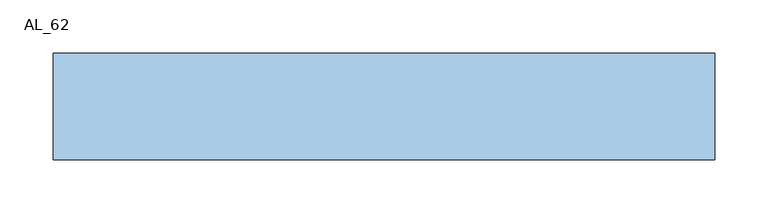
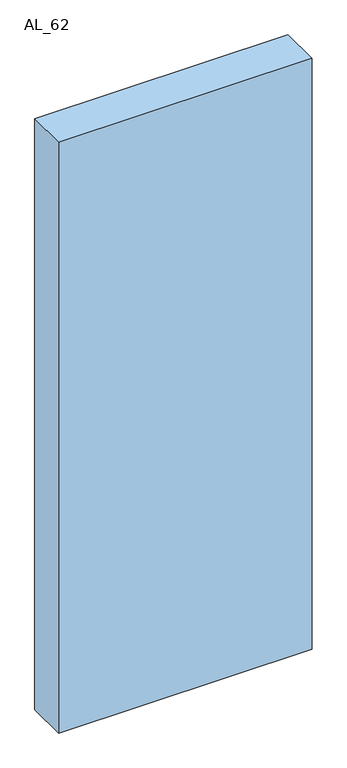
"""IFC4 building model written with IfcOpenShell, lengths in millimetres: window geometry, TRP_CP_ARC_FI_V3 : AL_62."""

from ifc_helpers import new_model, si_unit, origin, origin_with_axes, place, context, project, spatial, polyline, outline, extrude, source, transform, mapped, element, save


def al_62_ab90a766(model_context):
    return source(origin(), model_context, "Body", "SweptSolid", [
        extrude(outline(polyline([(310.0, -50.0), (-310.0, -50.0), (-310.0, 50.0), (310.0, 50.0), (310.0, -50.0)])), origin_with_axes(), (0.0, 0.0, 1.0), 1527.0),
    ])


if __name__ == "__main__":
    model = new_model("IFC4")
    model_context = context("Model", 3, world=origin())
    ifc_project = project(units=[si_unit("LENGTHUNIT", "METRE", prefix="MILLI")], contexts=[model_context])
    site = spatial("IfcSite", under=ifc_project)
    building = spatial("IfcBuilding", under=site)
    placement = place(None, origin())
    al_62_shape = al_62_ab90a766(model_context)
    element("IfcWindow", 1, ObjectType="TRP_CP_ARC_FI_V3 : AL_62", at=placement, inside=building, context=model_context, shape_type="MappedRepresentation", body=[
        mapped(al_62_shape, transform((0.0, 0.0, 0.0), x_axis=(1.0, 0.0, 0.0), y_axis=(0.0, 1.0, 0.0), z_axis=(0.0, 0.0, 1.0))),
    ])
    save(model, "model.ifc")
